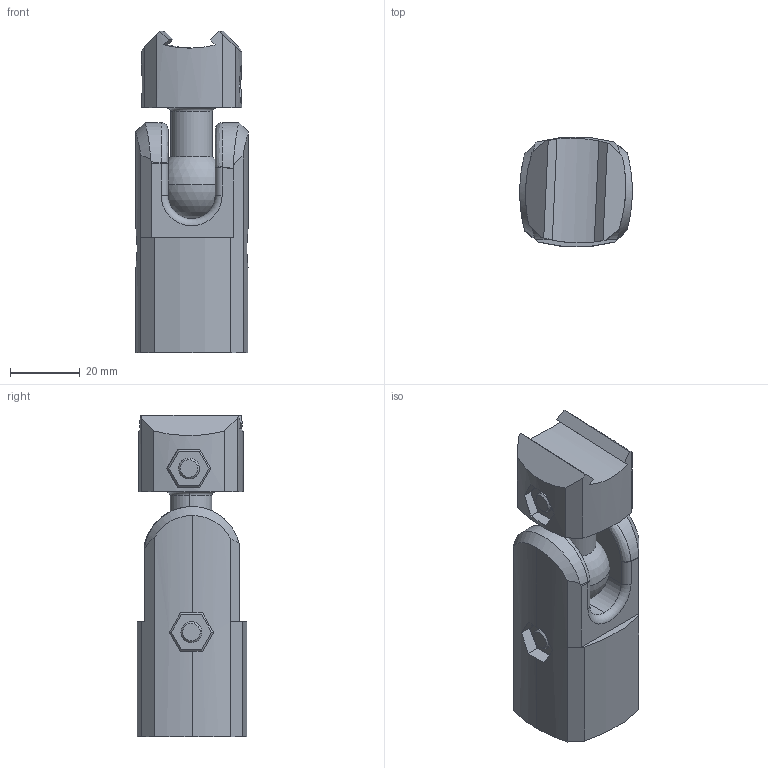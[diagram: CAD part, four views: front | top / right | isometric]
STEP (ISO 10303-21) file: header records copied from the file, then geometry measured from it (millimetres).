
FILE_DESCRIPTION (( 'STEP AP203' ), '1' );
FILE_NAME ('1098.STEP', '2016-05-29T11:30:26', ( 'RosInstal-MKM' ), ( '' ), 'SwSTEP 2.0', 'SolidWorks 2014', '' );
FILE_SCHEMA (( 'CONFIG_CONTROL_DESIGN' ));
Length unit declared in the file: millimetre
Products named in the file (6): 櫻蠉錪7; 櫻蠉錪71; 鎔艜98; ãàéêà98; 鎔艜98(1); 1098
Assembly tree (6 placements, depth 2):
  1098
    櫻蠉錪7
    櫻蠉錪71
    鎔艜98
    ãàéêà98  x2
    鎔艜98(1)
Bounding box: 32.26 x 31.32 x 92.19 mm (x, y, z)
Volume: 62250.5 mm3; surface area: 18390.7 mm2
Topology: 6 solids, 6 shells, 219 faces, 521 edges, 302 vertices
Faces by surface type: plane 96, cylinder 71, torus 26, sphere 16, bspline 6, cone 4
Entity records: 7371 total; most frequent: CARTESIAN_POINT 2295, DIRECTION 979, ORIENTED_EDGE 910, EDGE_CURVE 455, AXIS2_PLACEMENT_3D 386, VERTEX_POINT 272, EDGE_LOOP 207, LINE 207
